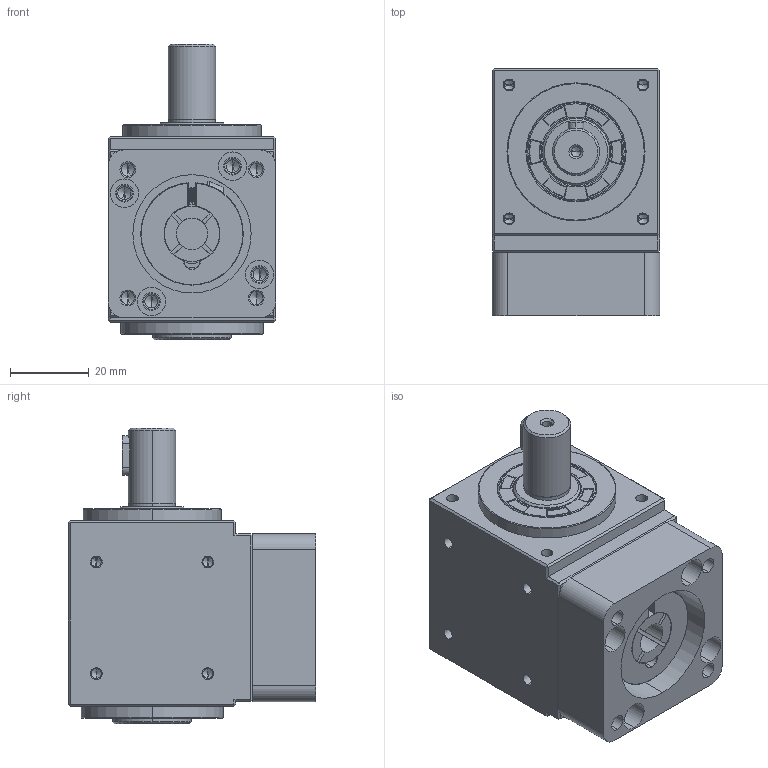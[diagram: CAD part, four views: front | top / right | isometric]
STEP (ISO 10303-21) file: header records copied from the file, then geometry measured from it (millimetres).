
FILE_DESCRIPTION (( 'STEP AP203' ), '1' );
FILE_NAME ('RS42-2(8-30-46-M4).STEP', '2022-02-25T09:09:40', ( '' ), ( '' ), 'SwSTEP 2.0', 'SolidWorks 2016', '' );
FILE_SCHEMA (( 'CONFIG_CONTROL_DESIGN' ));
Length unit declared in the file: millimetre
Products named in the file (8): RS42-(12x20-4x10); R42; R42-17x25x4; R42-20x32x5; SN42-26x14x11-M4; R42-2-(8); R42-2(30-46-M4); RS42-2(8-30-46-M4)
Assembly tree (7 placements, depth 2):
  RS42-2(8-30-46-M4)
    R42
    R42-2(30-46-M4)
    RS42-(12x20-4x10)
    R42-20x32x5
    R42-17x25x4
    SN42-26x14x11-M4
    R42-2-(8)
Bounding box: 42.5 x 62.75 x 75 mm (x, y, z)
Volume: 89835.7 mm3; surface area: 42137.2 mm2
Topology: 8 solids, 8 shells, 676 faces, 1577 edges, 921 vertices
Faces by surface type: cylinder 306, plane 148, cone 146, torus 48, bspline 28
Entity records: 31724 total; most frequent: CARTESIAN_POINT 16127, DIRECTION 3112, ORIENTED_EDGE 3034, EDGE_CURVE 1517, AXIS2_PLACEMENT_3D 1219, VERTEX_POINT 921, EDGE_LOOP 764, ADVANCED_FACE 676
